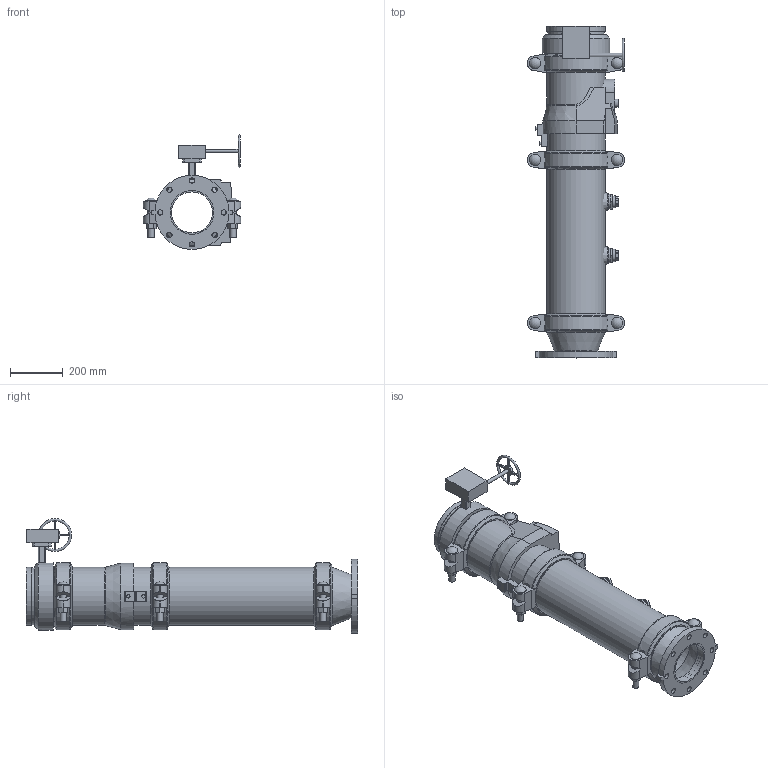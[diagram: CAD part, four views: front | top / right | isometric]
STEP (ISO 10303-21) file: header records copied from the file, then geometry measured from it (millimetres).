
FILE_DESCRIPTION(/* description */ ('VIC DVI PUMP DROP VERT S/390 (OGSxFLG)','CAx-IF Rec.Pracs.---Representation and Presentation of Product Manufacturing Information (PMI)---4.0---2014-10-13'),/* implementation_level */ '2;1');
FILE_NAME(/* name */ 'C:\Users\Vjadhav\AppData\Roaming\Autodesk\ApplicationPlugins\Back Up\Victaulic_IPS_Vertical DVI_PN10_Series 390 (OGSxFLG)\Victaulic_IPS_Vertical DVI_PN10_Series 390 (OGSxFLG)_08.0x06.0 (165.1) (200x150).stp',/* time_stamp */ '2020-11-09T17:51:43+05:00',/* author */ ('Vjadhav'),/* organization */ ('Victaulic'),/* preprocessor_version */ 'ST-DEVELOPER v17.2',/* originating_system */ 'Autodesk Inventor 2019',/* authorisation */ '');
FILE_SCHEMA (('AP242_MANAGED_MODEL_BASED_3D_ENGINEERING_MIM_LF { 1 0 10303 442 1 1 4 }'));
Length unit declared in the file: inch
Products named in the file (8): 390-08.0x06.0 (165.1); 741-06.0 (165.1); 050-08.0x06.0 (165.1); Pipe-08.0x04.0; 177N-08.0; 716-08.0; 923-04.0x0.75; 761-08.0
Assembly tree (10 placements, depth 2):
  390-08.0x06.0 (165.1)
    741-06.0 (165.1)
    050-08.0x06.0 (165.1)
    177N-08.0  x3
    Pipe-08.0x04.0
    716-08.0
    923-04.0x0.75  x2
    761-08.0
Bounding box: 367.28 x 1252.98 x 433.31 mm (x, y, z)
Volume: 15806724.5 mm3; surface area: 2627551.6 mm2
Topology: 10 solids, 11 shells, 583 faces, 1550 edges, 1038 vertices
Faces by surface type: plane 350, cylinder 187, cone 20, torus 18, sphere 6, bspline 2
Full cylindrical faces by diameter (mm): 8.636 x4, 12.446 x1, 12.7 x3, 20.066 x8, 22.86 x1, 23.774 x6, 26.67 x2, 30.48 x1, 39.125 x1, 42.85 x6, 45.974 x4, 55.118 x1, 55.626 x2, 154.051 x1, 160.782 x1, 165.1 x3, 202.717 x3, 206.375 x3, 206.985 x1, 214.401 x7, 219.075 x19, 254 x1
Entity records: 11825 total; most frequent: CARTESIAN_POINT 2386, DIRECTION 1922, ORIENTED_EDGE 1788, EDGE_CURVE 894, AXIS2_PLACEMENT_3D 727, VERTEX_POINT 606, LINE 468, VECTOR 468
